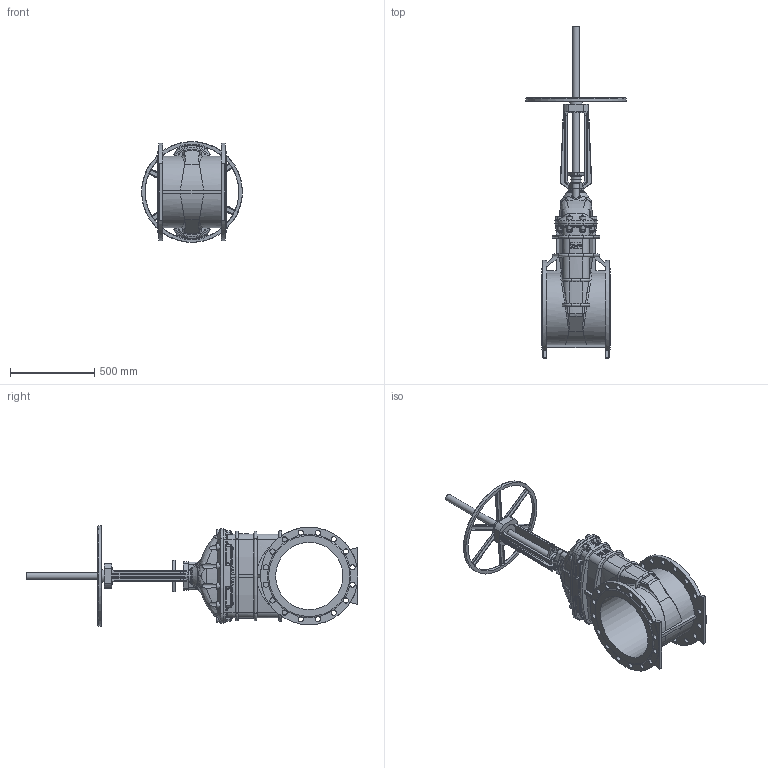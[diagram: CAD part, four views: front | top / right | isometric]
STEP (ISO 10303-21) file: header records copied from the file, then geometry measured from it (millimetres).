
FILE_DESCRIPTION (( 'STEP AP203' ), '1' );
FILE_NAME ('O_21_34_DN400_41XXXXX open_AA0.step', '2020-02-12T09:54:49', ( 'Windows User' ), ( 'AVK' ), 'SwSTEP 2.0', 'SolidWorks 2012', '' );
FILE_SCHEMA (( 'CONFIG_CONTROL_DESIGN' ));
Products named in the file (1): O_21_34_DN400_41XXXXX open_AA0
Bounding box: 598.51 x 1975 x 598.51 mm (x, y, z)
Volume: 64446094.3 mm3; surface area: 3223453.4 mm2
Topology: 1 solids, 1 shells, 963 faces, 2584 edges, 1593 vertices
Faces by surface type: bspline 310, plane 204, cylinder 200, cone 146, torus 71, sphere 32
Full cylindrical faces by diameter (mm): 31 x32, 40 x2, 55.9 x1, 60 x1, 64 x1, 77 x1, 105 x1, 400 x1, 580 x2
Entity records: 46481 total; most frequent: CARTESIAN_POINT 25840, ORIENTED_EDGE 4960, DIRECTION 3454, EDGE_CURVE 2480, VERTEX_POINT 1548, AXIS2_PLACEMENT_3D 1468, EDGE_LOOP 1078, FACE_OUTER_BOUND 1008
